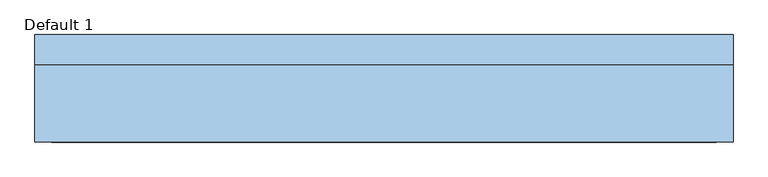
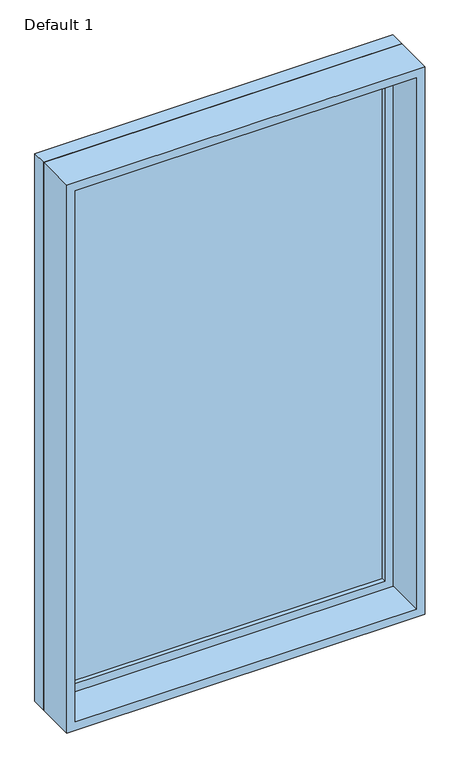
"""IFC4 building model written with IfcOpenShell, lengths in millimetres: window geometry, Planitar-Fixed : Default 1."""

from ifc_helpers import new_model, si_unit, frame, origin, place, context, project, spatial, polyline, outline, extrude, source, transform, mapped, element, save


def default_1_2d5b841e(model_context):
    return source(origin(), model_context, "Body", "SweptSolid", [
        extrude(outline(polyline([(3029.0, -641.4), (933.4, -641.4), (933.4, 641.4), (3029.0, 641.4), (3029.0, -641.4)]), holes=[polyline([(2985.0, -597.4), (2985.0, 597.4), (977.4, 597.4), (977.4, -597.4), (2985.0, -597.4)])]), frame((0.0, 57.9, 0.0), z_axis=(0.0, 1.0, 0.0), x_axis=(0.0, 0.0, 1.0)), (0.0, 0.0, 1.0), 44.0),
        extrude(outline(polyline([(3048.0, -660.4), (914.4, -660.4), (914.4, 660.4), (3048.0, 660.4), (3048.0, -660.4)]), holes=[polyline([(3029.0, -641.4), (3029.0, 641.4), (933.4, 641.4), (933.4, -641.4), (3029.0, -641.4)])]), frame((0.0, 57.9, 0.0), z_axis=(0.0, 1.0, 0.0), x_axis=(0.0, 0.0, 1.0)), (0.0, 0.0, 1.0), 56.7),
        extrude(outline(polyline([(3048.0, -660.4), (914.4, -660.4), (914.4, 660.4), (3048.0, 660.4), (3048.0, -660.4)]), holes=[polyline([(3016.0, -628.4), (3016.0, 628.4), (946.4, 628.4), (946.4, -628.4), (3016.0, -628.4)])]), frame((0.0, -88.6, 0.0), z_axis=(0.0, 1.0, 0.0), x_axis=(0.0, 0.0, 1.0)), (0.0, 0.0, 1.0), 146.5),
        extrude(outline(polyline([(-597.4, 85.9), (597.4, 85.9), (597.4, 73.9), (-597.4, 73.9), (-597.4, 85.9)])), frame((0.0, 0.0, 977.4), z_axis=(0.0, 0.0, 1.0), x_axis=(1.0, 0.0, 0.0)), (0.0, 0.0, 1.0), 2007.6),
    ])


if __name__ == "__main__":
    model = new_model("IFC4")
    model_context = context("Model", 3, world=origin())
    ifc_project = project(units=[si_unit("LENGTHUNIT", "METRE", prefix="MILLI")], contexts=[model_context])
    site = spatial("IfcSite", under=ifc_project)
    building = spatial("IfcBuilding", under=site)
    placement = place(None, origin())
    default_1_shape = default_1_2d5b841e(model_context)
    element("IfcWindow", 1, ObjectType="Planitar-Fixed : Default 1", at=placement, inside=building, context=model_context, shape_type="MappedRepresentation", body=[
        mapped(default_1_shape, transform((0.0, 0.0, 0.0), x_axis=(1.0, 0.0, 0.0), y_axis=(0.0, 1.0, 0.0), z_axis=(0.0, 0.0, 1.0))),
    ])
    save(model, "model.ifc")
